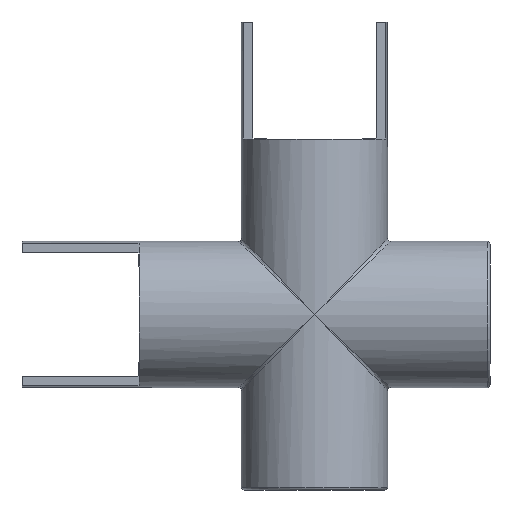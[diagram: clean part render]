
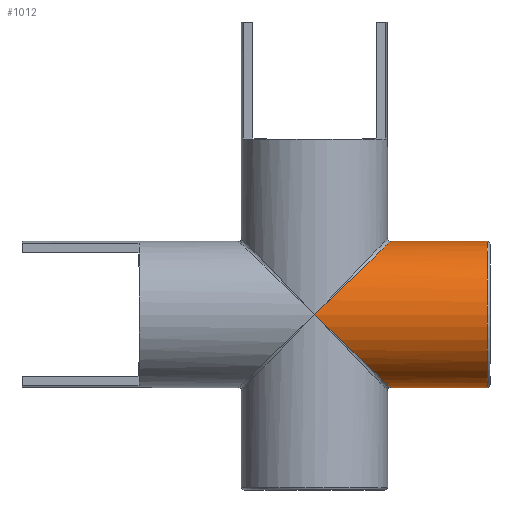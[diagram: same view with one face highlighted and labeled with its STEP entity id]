
A CAD part, front view. The second image highlights one B-rep face of the part: STEP entity #1012.
In plain terms, the highlighted cylindrical face has radius 12.5 mm (diameter 25 mm), a full revolution.
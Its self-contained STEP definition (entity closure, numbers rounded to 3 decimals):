
#37=CYLINDRICAL_SURFACE('',#1085,12.5);
#46=FACE_OUTER_BOUND('',#85,.T.);
#85=EDGE_LOOP('',(#714,#715,#716,#717,#718,#719,#720,#721));
#129=CIRCLE('',#1080,12.5);
#133=CIRCLE('',#1084,12.5);
#184=B_SPLINE_CURVE_WITH_KNOTS('',3,(#1567,#1568,#1569,#1570,#1571,#1572,
#1573),.UNSPECIFIED.,.F.,.F.,(4,1,1,1,4),(-2.724,-2.213,
-1.958,-1.447,-0.936),.UNSPECIFIED.);
#211=LINE('',#1575,#285);
#285=VECTOR('',#1226,11.);
#353=ELLIPSE('',#1086,18.035,12.5);
#354=ELLIPSE('',#1087,18.035,12.5);
#355=ELLIPSE('',#1088,18.035,12.5);
#391=VERTEX_POINT('',#1551);
#392=VERTEX_POINT('',#1552);
#395=VERTEX_POINT('',#1561);
#396=VERTEX_POINT('',#1562);
#397=VERTEX_POINT('',#1564);
#398=VERTEX_POINT('',#1566);
#530=EDGE_CURVE('',#391,#392,#129,.T.);
#534=EDGE_CURVE('',#392,#391,#133,.T.);
#535=EDGE_CURVE('',#395,#396,#353,.T.);
#536=EDGE_CURVE('',#397,#395,#354,.T.);
#537=EDGE_CURVE('',#397,#398,#184,.T.);
#538=EDGE_CURVE('',#396,#398,#355,.T.);
#539=EDGE_CURVE('',#396,#391,#211,.T.);
#714=ORIENTED_EDGE('',*,*,#535,.F.);
#715=ORIENTED_EDGE('',*,*,#536,.F.);
#716=ORIENTED_EDGE('',*,*,#537,.T.);
#717=ORIENTED_EDGE('',*,*,#538,.F.);
#718=ORIENTED_EDGE('',*,*,#539,.T.);
#719=ORIENTED_EDGE('',*,*,#534,.F.);
#720=ORIENTED_EDGE('',*,*,#530,.F.);
#721=ORIENTED_EDGE('',*,*,#539,.F.);
#1012=ADVANCED_FACE('',(#46),#37,.T.);
#1080=AXIS2_PLACEMENT_3D('',#1553,#1208,#1209);
#1084=AXIS2_PLACEMENT_3D('',#1559,#1216,#1217);
#1085=AXIS2_PLACEMENT_3D('',#1560,#1218,#1219);
#1086=AXIS2_PLACEMENT_3D('',#1563,#1220,#1221);
#1087=AXIS2_PLACEMENT_3D('',#1565,#1222,#1223);
#1088=AXIS2_PLACEMENT_3D('',#1574,#1224,#1225);
#1208=DIRECTION('center_axis',(1.,0.,0.));
#1209=DIRECTION('ref_axis',(0.,0.,-1.));
#1216=DIRECTION('center_axis',(1.,0.,0.));
#1217=DIRECTION('ref_axis',(0.,0.,-1.));
#1218=DIRECTION('center_axis',(1.,0.,0.));
#1219=DIRECTION('ref_axis',(0.,0.,-1.));
#1220=DIRECTION('center_axis',(-0.693,0.,
0.721));
#1221=DIRECTION('ref_axis',(0.721,0.,0.693));
#1222=DIRECTION('center_axis',(-0.693,0.,
-0.721));
#1223=DIRECTION('ref_axis',(0.721,0.,-0.693));
#1224=DIRECTION('center_axis',(-0.693,0.,
0.721));
#1225=DIRECTION('ref_axis',(0.721,0.,0.693));
#1226=DIRECTION('',(1.,0.,0.));
#1551=CARTESIAN_POINT('',(29.5,0.,12.5));
#1552=CARTESIAN_POINT('',(29.5,0.,-12.5));
#1553=CARTESIAN_POINT('Origin',(29.5,0.,0.));
#1559=CARTESIAN_POINT('Origin',(29.5,0.,0.));
#1560=CARTESIAN_POINT('Origin',(30.,0.,0.));
#1561=CARTESIAN_POINT('',(0.,-12.5,0.));
#1562=CARTESIAN_POINT('',(13.,0.,12.5));
#1563=CARTESIAN_POINT('Origin',(0.,0.,0.));
#1564=CARTESIAN_POINT('',(8.132,9.753,-7.819));
#1565=CARTESIAN_POINT('Origin',(0.,0.,0.));
#1566=CARTESIAN_POINT('',(8.132,9.753,7.819));
#1567=CARTESIAN_POINT('Ctrl Pts',(8.132,9.753,-7.819));
#1568=CARTESIAN_POINT('Ctrl Pts',(9.255,10.618,-6.739));
#1569=CARTESIAN_POINT('Ctrl Pts',(10.659,11.786,-4.714));
#1570=CARTESIAN_POINT('Ctrl Pts',(11.755,12.717,-0.484));
#1571=CARTESIAN_POINT('Ctrl Pts',(11.154,12.201,4.044));
#1572=CARTESIAN_POINT('Ctrl Pts',(9.255,10.618,6.739));
#1573=CARTESIAN_POINT('Ctrl Pts',(8.132,9.753,7.819));
#1574=CARTESIAN_POINT('Origin',(0.,0.,0.));
#1575=CARTESIAN_POINT('',(30.,0.,12.5));
